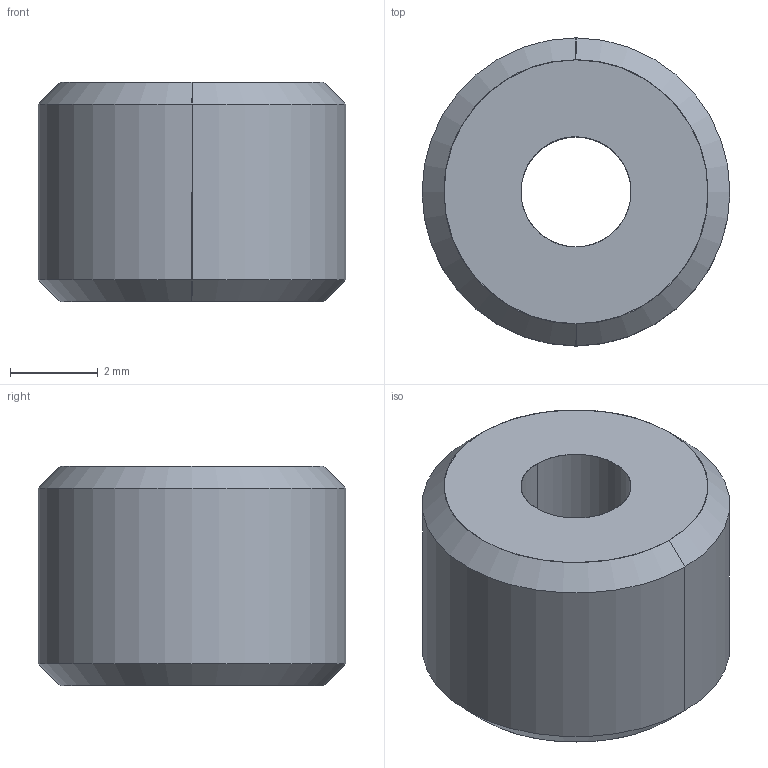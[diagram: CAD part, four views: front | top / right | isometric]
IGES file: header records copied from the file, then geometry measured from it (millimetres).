
Global section: file name: E:\UnigraphicsGraphicData\MISUMI_PRESS-PARTS\IGES\3d_fwss-d7-v2.5-t5.0_00535_r00.igs; native system: NX V5.0; preprocessor: UGS NX IGES V5.0; author: MISUMI; date: 20110105.160701; units: millimetre
Bounding box: 7 x 7 x 5 mm (x, y, z)
Surface area: 203 mm2 (no closed solid volume)
Topology: 0 solids, 0 shells, 10 faces, 64 edges, 64 vertices
Faces by surface type: bspline 10
